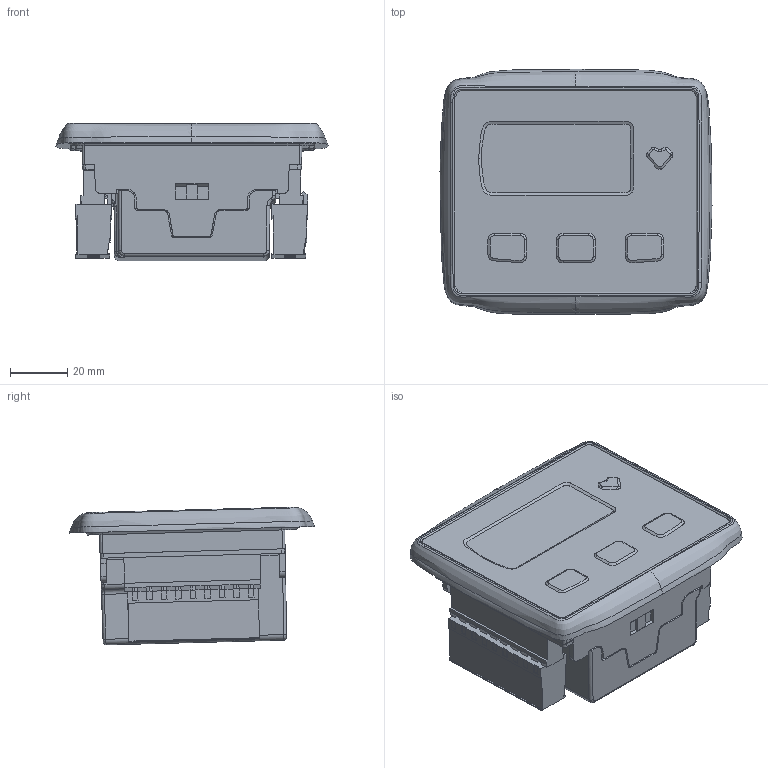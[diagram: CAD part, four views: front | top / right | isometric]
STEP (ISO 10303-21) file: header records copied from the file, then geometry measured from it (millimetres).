
FILE_DESCRIPTION((''),'2;1');
FILE_NAME('HGM1790N_WZ_ASM','2025-09-02T14:09:56',('Administrator'),(''),'CREO PARAMETRIC BY PTC INC, 2023073','CREO PARAMETRIC BY PTC INC, 2023073','');
FILE_SCHEMA(('CONFIG_CONTROL_DESIGN'));
Products named in the file (7): HGM1790N_WZ_1_1; HGM1790N_WZ_5; HGM1790N_WZ_6; HGM1790N_WZ_1_ASM; 9P-180--5_080001; 9P-180_-5_08; HGM1790N_WZ_ASM
Assembly tree (6 placements, depth 3):
  HGM1790N_WZ_ASM
    HGM1790N_WZ_1_ASM
      HGM1790N_WZ_1_1
      HGM1790N_WZ_5
      HGM1790N_WZ_6
    9P-180--5_080001
    9P-180_-5_08
Bounding box: 95.27 x 85.97 x 48.26 mm (x, y, z)
Volume: 225891.7 mm3; surface area: 50328.4 mm2
Topology: 5 solids, 5 shells, 2747 faces, 7247 edges, 4660 vertices
Faces by surface type: plane 1906, cylinder 560, torus 116, cone 101, bspline 62, extrusion 2
Entity records: 101871 total; most frequent: CARTESIAN_POINT 33242, ORIENTED_EDGE 14492, DIRECTION 13919, EDGE_CURVE 7246, VECTOR 5337, LINE 5335, VERTEX_POINT 4660, AXIS2_PLACEMENT_3D 4291
